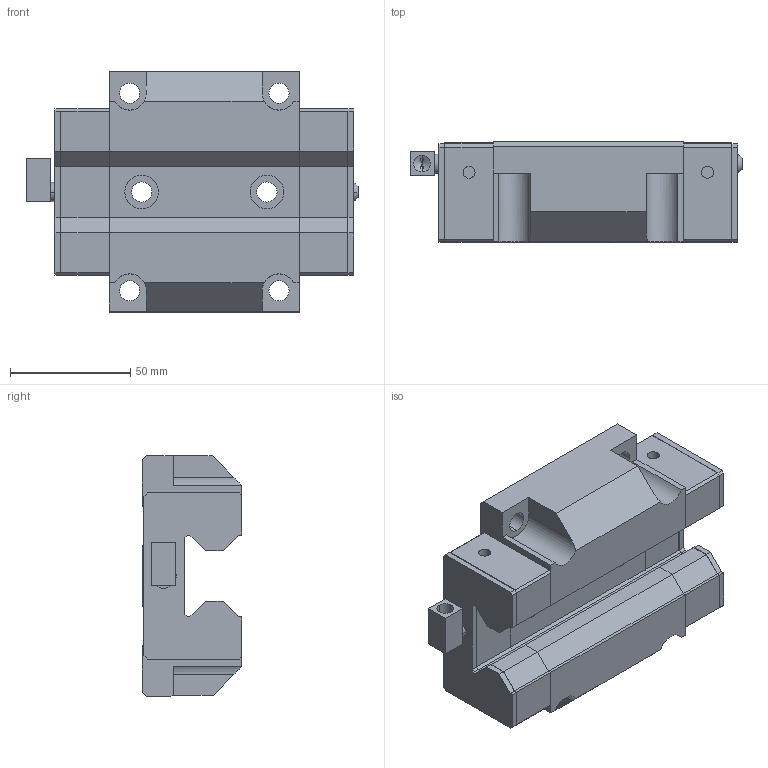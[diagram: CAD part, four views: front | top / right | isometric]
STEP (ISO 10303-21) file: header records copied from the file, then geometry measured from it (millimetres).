
FILE_DESCRIPTION (( 'STEP AP203' ), '1' );
FILE_NAME ('SGW35CC.STEP', '2025-07-11T04:54:00', ( 'Owner' ), ( 'Organization' ), 'SwSTEP 2.0', 'SolidWorks 2020', '' );
FILE_SCHEMA (( 'CONFIG_CONTROL_DESIGN' ));
Length unit declared in the file: millimetre
Products named in the file (1): SGW35CC
Bounding box: 137.8 x 41.5 x 100 mm (x, y, z)
Volume: 336140.7 mm3; surface area: 67020.2 mm2
Topology: 7 solids, 7 shells, 285 faces, 716 edges, 460 vertices
Faces by surface type: plane 225, cylinder 56, cone 2, torus 2
Entity records: 8478 total; most frequent: CARTESIAN_POINT 1472, ORIENTED_EDGE 1428, DIRECTION 1399, EDGE_CURVE 714, VECTOR 593, LINE 593, VERTEX_POINT 460, AXIS2_PLACEMENT_3D 403
